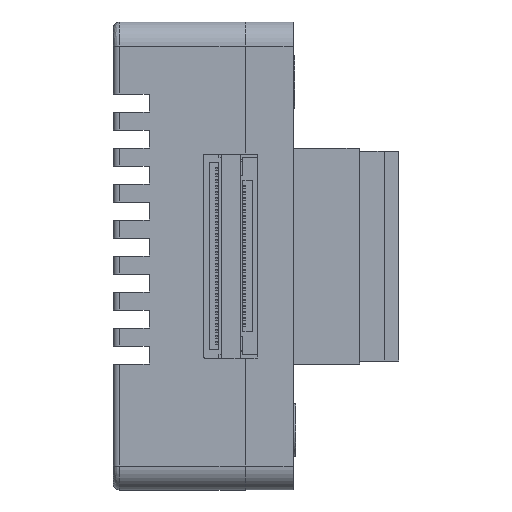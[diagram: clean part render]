
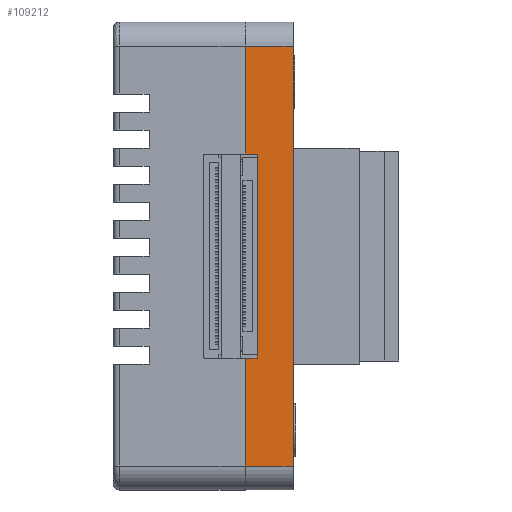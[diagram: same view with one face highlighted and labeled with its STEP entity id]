
A CAD part, left-side view. The second image highlights one B-rep face of the part: STEP entity #109212.
In plain terms, the highlighted planar face has unit normal (-1, 0, 0).
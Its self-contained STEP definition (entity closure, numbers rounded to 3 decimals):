
#9253 = VECTOR ( 'NONE', #12780, 1000. ) ;
#12780 = DIRECTION ( 'NONE',  ( 0., -1., 0. ) ) ;
#13171 = VECTOR ( 'NONE', #162706, 1000. ) ;
#16363 = VECTOR ( 'NONE', #95782, 1000. ) ;
#17438 = CARTESIAN_POINT ( 'NONE',  ( -36.5, -6., -17.5 ) ) ;
#18290 = CARTESIAN_POINT ( 'NONE',  ( -36.5, -2., -8.5 ) ) ;
#19232 = VERTEX_POINT ( 'NONE', #52722 ) ;
#20716 = LINE ( 'NONE', #173508, #206297 ) ;
#23910 = CARTESIAN_POINT ( 'NONE',  ( -36.5, -5., -19.5 ) ) ;
#36772 = EDGE_CURVE ( 'NONE', #72299, #211948, #20716, .T. ) ;
#39847 = VECTOR ( 'NONE', #234852, 1000. ) ;
#41008 = CARTESIAN_POINT ( 'NONE',  ( -36.5, -3., -19.5 ) ) ;
#52722 = CARTESIAN_POINT ( 'NONE',  ( -36.5, -2., 17.5 ) ) ;
#55121 = ORIENTED_EDGE ( 'NONE', *, *, #140357, .T. ) ;
#55997 = EDGE_CURVE ( 'NONE', #19232, #72299, #221796, .T. ) ;
#57092 = DIRECTION ( 'NONE',  ( 0., 0., -1. ) ) ;
#58062 = DIRECTION ( 'NONE',  ( 0., -1., 0. ) ) ;
#58093 = ORIENTED_EDGE ( 'NONE', *, *, #251593, .T. ) ;
#60300 = CARTESIAN_POINT ( 'NONE',  ( -36.5, -2., 8.5 ) ) ;
#61988 = EDGE_CURVE ( 'NONE', #80158, #19232, #160305, .T. ) ;
#62434 = ORIENTED_EDGE ( 'NONE', *, *, #116327, .T. ) ;
#70684 = LINE ( 'NONE', #164392, #9253 ) ;
#71976 = CARTESIAN_POINT ( 'NONE',  ( -36.5, -6., -17.5 ) ) ;
#72299 = VERTEX_POINT ( 'NONE', #60300 ) ;
#80158 = VERTEX_POINT ( 'NONE', #107931 ) ;
#85768 = EDGE_CURVE ( 'NONE', #214123, #99585, #157662, .T. ) ;
#88261 = AXIS2_PLACEMENT_3D ( 'NONE', #23910, #98470, #102247 ) ;
#95782 = DIRECTION ( 'NONE',  ( 0., 0., -1. ) ) ;
#98470 = DIRECTION ( 'NONE',  ( -1., 0., 0. ) ) ;
#99585 = VERTEX_POINT ( 'NONE', #18290 ) ;
#102247 = DIRECTION ( 'NONE',  ( 0., 0., 1. ) ) ;
#107931 = CARTESIAN_POINT ( 'NONE',  ( -36.5, -6., 17.5 ) ) ;
#109212 = ADVANCED_FACE ( 'NONE', ( #159988 ), #199727, .T. ) ;
#116327 = EDGE_CURVE ( 'NONE', #211948, #214123, #137197, .T. ) ;
#131505 = CARTESIAN_POINT ( 'NONE',  ( -36.5, -2., -19.5 ) ) ;
#131512 = ORIENTED_EDGE ( 'NONE', *, *, #223530, .F. ) ;
#137197 = LINE ( 'NONE', #41008, #180026 ) ;
#137697 = ORIENTED_EDGE ( 'NONE', *, *, #55997, .T. ) ;
#139389 = CARTESIAN_POINT ( 'NONE',  ( -36.5, -2., -17.5 ) ) ;
#140357 = EDGE_CURVE ( 'NONE', #210773, #217998, #70684, .T. ) ;
#141292 = EDGE_LOOP ( 'NONE', ( #157746, #137697, #162112, #62434, #240215, #58093, #55121, #131512 ) ) ;
#157619 = CARTESIAN_POINT ( 'NONE',  ( -36.5, -2., -19.5 ) ) ;
#157662 = LINE ( 'NONE', #196203, #39847 ) ;
#157746 = ORIENTED_EDGE ( 'NONE', *, *, #61988, .T. ) ;
#159988 = FACE_OUTER_BOUND ( 'NONE', #141292, .T. ) ;
#160305 = LINE ( 'NONE', #216847, #202117 ) ;
#162112 = ORIENTED_EDGE ( 'NONE', *, *, #36772, .T. ) ;
#162706 = DIRECTION ( 'NONE',  ( 0., 0., -1. ) ) ;
#164392 = CARTESIAN_POINT ( 'NONE',  ( -36.5, -5., -17.5 ) ) ;
#173508 = CARTESIAN_POINT ( 'NONE',  ( -36.5, -2., 8.5 ) ) ;
#180026 = VECTOR ( 'NONE', #216861, 1000. ) ;
#190950 = CARTESIAN_POINT ( 'NONE',  ( -36.5, -3., 8.5 ) ) ;
#193328 = LINE ( 'NONE', #17438, #16363 ) ;
#196203 = CARTESIAN_POINT ( 'NONE',  ( -36.5, -2., -8.5 ) ) ;
#199727 = PLANE ( 'NONE',  #88261 ) ;
#201330 = DIRECTION ( 'NONE',  ( 0., 1., 0. ) ) ;
#202117 = VECTOR ( 'NONE', #201330, 1000. ) ;
#203108 = CARTESIAN_POINT ( 'NONE',  ( -36.5, -3., -8.5 ) ) ;
#206297 = VECTOR ( 'NONE', #58062, 1000. ) ;
#210773 = VERTEX_POINT ( 'NONE', #139389 ) ;
#211948 = VERTEX_POINT ( 'NONE', #190950 ) ;
#214123 = VERTEX_POINT ( 'NONE', #203108 ) ;
#216847 = CARTESIAN_POINT ( 'NONE',  ( -36.5, -5., 17.5 ) ) ;
#216861 = DIRECTION ( 'NONE',  ( 0., 0., -1. ) ) ;
#217998 = VERTEX_POINT ( 'NONE', #71976 ) ;
#221796 = LINE ( 'NONE', #157619, #13171 ) ;
#223530 = EDGE_CURVE ( 'NONE', #80158, #217998, #193328, .T. ) ;
#225068 = VECTOR ( 'NONE', #57092, 1000. ) ;
#234852 = DIRECTION ( 'NONE',  ( 0., 1., 0. ) ) ;
#240215 = ORIENTED_EDGE ( 'NONE', *, *, #85768, .T. ) ;
#249797 = LINE ( 'NONE', #131505, #225068 ) ;
#251593 = EDGE_CURVE ( 'NONE', #99585, #210773, #249797, .T. ) ;
